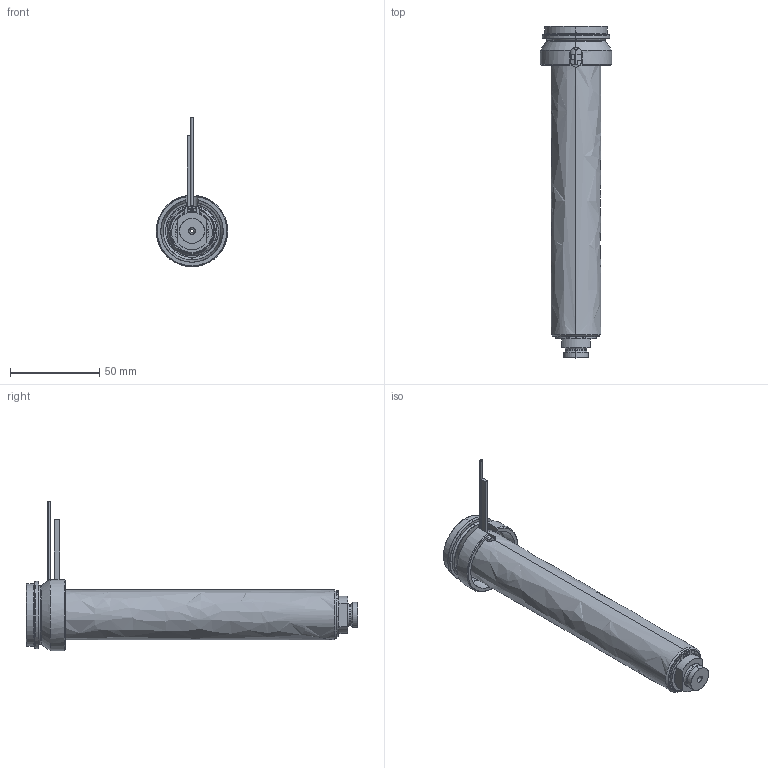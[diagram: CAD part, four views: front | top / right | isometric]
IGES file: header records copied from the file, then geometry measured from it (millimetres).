
Start section: SolidWorks IGES file using analytic representation for surfaces
Global section: file name: C:\Documents and Settings\ws-20\Desktop\TEMPORANEA\UGBE4004-S-A-5 [Ød-2.0 P-0 ØC-10].IGS; native system: SolidWorks 2012; preprocessor: SolidWorks 2012; author: ws-20; date: 120306.141101; units: millimetre
Bounding box: 40 x 186 x 83.65 mm (x, y, z)
Surface area: 55221.8 mm2 (no closed solid volume)
Topology: 0 solids, 0 shells, 108 faces, 1861 edges, 1861 vertices
Faces by surface type: revolution 66, bspline 42
